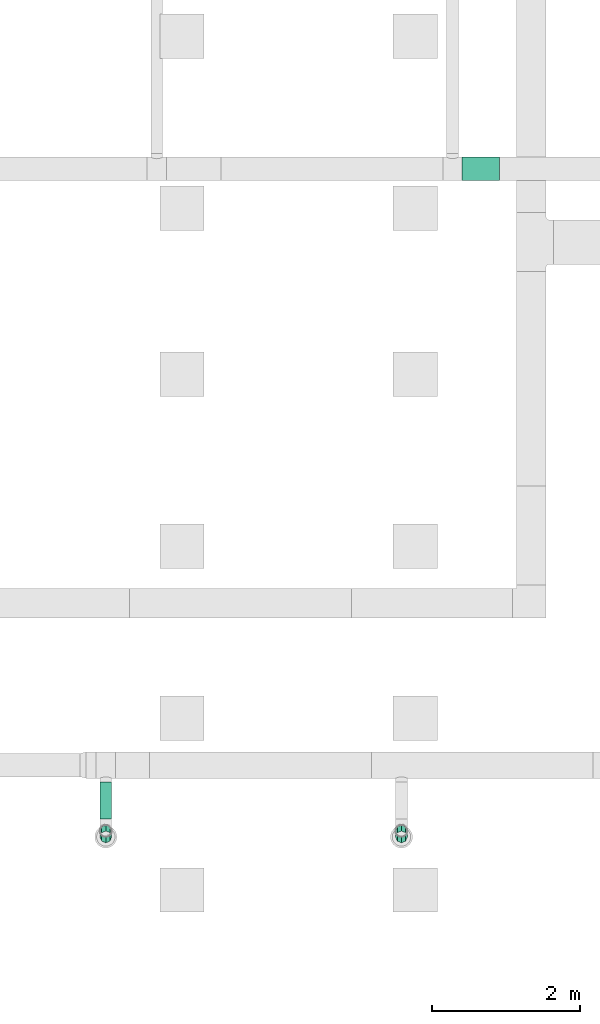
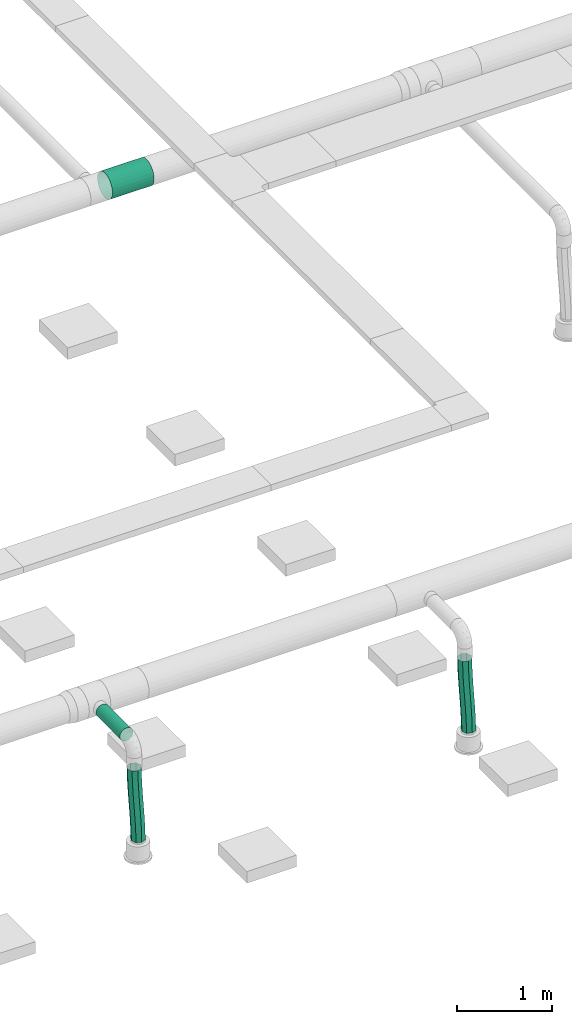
# One storey, part 236 of 374: 4 flow segments.
"""IFC2X3 building model written with IfcOpenShell, lengths in metres."""

from ifc_helpers import new_model, si_unit, direction, origin, place, context, subcontext, project, spatial, open_shell, surface_model, source, transform, mapped, element, save


model = new_model("IFC2X3")

# Units and contexts
model_context = context("Model", 3, precision=1e-05, world=origin(), true_north=direction((-0.4480736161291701, 0.8939966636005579)))
body_context = subcontext(model_context, "Body", "Model", "MODEL_VIEW")
ifc_project = project(units=[si_unit("LENGTHUNIT", "METRE"), si_unit("AREAUNIT", "SQUARE_METRE"), si_unit("VOLUMEUNIT", "CUBIC_METRE"), si_unit("PLANEANGLEUNIT", "RADIAN"), si_unit("THERMODYNAMICTEMPERATUREUNIT", "KELVIN"), si_unit("MASSUNIT", "GRAM", prefix="KILO"), si_unit("TIMEUNIT", "SECOND")], contexts=[model_context])

# Site, building, storey
site_placement = place(None, origin())
site = spatial("IfcSite", under=ifc_project, at=site_placement, Name="Site 1", CompositionType="ELEMENT")
building_placement = place(site_placement, origin())
building = spatial("IfcBuilding", under=site, at=building_placement, Name="Undefined", CompositionType="ELEMENT")
storey_placement = place(building_placement, origin())
storey = spatial("IfcBuildingStorey", under=building, at=storey_placement, Name="Rez de chauss\x8ee", CompositionType="ELEMENT", Elevation=0.0)

# Flow segments
shared_shape_1 = source(origin(), body_context, "Body", "SurfaceModel", [
    surface_model("IfcFaceBasedSurfaceModel", [(0.0, 0.04111575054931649, 0.0), (0.0, 0.0, 0.0), (0.5045715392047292, 0.0, -8.8817842e-16), (0.5045715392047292, 0.04111575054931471, -8.8817842e-16), (0.0, -0.03971476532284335, -0.010641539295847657), (0.5045715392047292, -0.039714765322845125, -0.010641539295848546), (0.0, -0.0753220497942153, -0.0311994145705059), (0.5045715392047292, -0.07532204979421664, -0.03119941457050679), (0.0, -0.10439527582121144, -0.060272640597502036), (0.5045715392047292, -0.10439527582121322, -0.06027264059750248), (0.0, -0.12495315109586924, -0.09587992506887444), (0.5045715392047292, -0.12495315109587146, -0.09587992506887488), (0.0, -0.13559469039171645, -0.13559469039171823), (0.5045715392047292, -0.13559469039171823, -0.13559469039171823), (0.0, -0.135594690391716, -0.17671044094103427), (0.5045715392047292, -0.13559469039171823, -0.17671044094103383), (0.0, -0.1249531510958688, -0.21642520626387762), (0.5045715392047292, -0.12495315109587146, -0.21642520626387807), (0.0, -0.10439527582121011, -0.2520324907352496), (0.5045715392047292, -0.10439527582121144, -0.2520324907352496), (0.0, -0.07532204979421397, -0.2811057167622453), (0.5045715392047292, -0.07532204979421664, -0.2811057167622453), (0.0, -0.039714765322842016, -0.3016635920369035), (0.5045715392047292, -0.03971476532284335, -0.3016635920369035), (0.0, 1.776356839e-15, -0.3123051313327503), (0.5045715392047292, -1.776356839e-15, -0.3123051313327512), (0.0, 0.041115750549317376, -0.31230513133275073), (0.5045715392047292, 0.04111575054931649, -0.3123051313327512), (0.0, 0.08083051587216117, -0.30166359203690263), (0.5045715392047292, 0.08083051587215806, -0.3016635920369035), (0.0, 0.11643780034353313, -0.28110571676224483), (0.5045715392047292, 0.11643780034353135, -0.2811057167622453), (0.0, 0.14551102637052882, -0.25203249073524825), (0.5045715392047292, 0.14551102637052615, -0.2520324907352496), (0.0, 0.16606890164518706, -0.2164252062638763), (0.5045715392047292, 0.1660689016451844, -0.21642520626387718), (0.0, 0.17671044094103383, -0.1767104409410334), (0.5045715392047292, 0.17671044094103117, -0.17671044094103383), (0.0, 0.17671044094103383, -0.1355946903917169), (0.5045715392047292, 0.17671044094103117, -0.13559469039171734), (0.0, 0.16606890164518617, -0.09587992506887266), (0.5045715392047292, 0.1660689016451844, -0.095879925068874), (0.0, 0.14551102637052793, -0.06027264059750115), (0.5045715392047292, 0.14551102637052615, -0.06027264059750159), (0.0, 0.1164378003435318, -0.031199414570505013), (0.5045715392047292, 0.11643780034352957, -0.03119941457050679), (0.0, 0.08083051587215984, -0.010641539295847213), (0.5045715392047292, 0.08083051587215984, -0.010641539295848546)], [open_shell([[[0, 1, 2, 3]], [[1, 4, 5, 2]], [[4, 6, 7, 5]], [[6, 8, 9, 7]], [[8, 10, 11, 9]], [[10, 12, 13, 11]], [[12, 14, 15, 13]], [[14, 16, 17, 15]], [[16, 18, 19, 17]], [[18, 20, 21, 19]], [[20, 22, 23, 21]], [[22, 24, 25, 23]], [[24, 26, 27, 25]], [[26, 28, 29, 27]], [[28, 30, 31, 29]], [[30, 32, 33, 31]], [[32, 34, 35, 33]], [[34, 36, 37, 35]], [[36, 38, 39, 37]], [[38, 40, 41, 39]], [[40, 42, 43, 41]], [[42, 44, 45, 43]], [[44, 46, 47, 45]], [[46, 0, 3, 47]]])]),
])
flow_segment_1_placement = place(storey_placement, origin())
element("IfcFlowSegment", 1, at=flow_segment_1_placement, inside=storey, Name="Tube", ObjectType="Tube", context=body_context, shape_type="MappedRepresentation", body=[
    mapped(shared_shape_1, transform((27.614625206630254, 10.95995797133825, 3.952133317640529), x_axis=(-1.0, 0.0, 0.0), y_axis=(7.266545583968e-12, -0.9914448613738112, 0.13052619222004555), z_axis=(0.0, 0.13052619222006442, 0.9914448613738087))),
])
shared_shape_2 = source(origin(), body_context, "Body", "SurfaceModel", [
    surface_model("IfcFaceBasedSurfaceModel", [(0.09591138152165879, 0.0, -3.552713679e-15), (0.05777895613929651, 0.04790565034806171, -3.552713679e-15), (0.0, 0.0, 0.0), (0.039908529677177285, -0.04643643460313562, -1.0802189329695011e-06), (-0.05576709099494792, -0.04966194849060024, -0.0010921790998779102), (-0.014403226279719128, -0.09480686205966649, -0.0010661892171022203), (-0.10982704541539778, -0.10061373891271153, -0.0030471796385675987), (-0.06736210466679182, -0.14472448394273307, -0.0029825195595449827), (-0.1625398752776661, -0.15244488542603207, -0.0056388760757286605), (-0.1193063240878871, -0.19580250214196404, -0.005537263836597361), (-0.21426131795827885, -0.20475371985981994, -0.00864508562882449), (-0.17057410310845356, -0.2476541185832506, -0.008517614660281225), (-0.2653408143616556, -0.2571453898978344, -0.011847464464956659), (-0.2215036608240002, -0.29989253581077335, -0.011710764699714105), (-0.3161204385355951, -0.30923056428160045, -0.015031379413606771), (-0.27243322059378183, -0.35213095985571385, -0.014903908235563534), (-0.3669345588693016, -0.36062497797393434, -0.01798585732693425), (-0.32370100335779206, -0.403982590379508, -0.01788424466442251), (-0.41811017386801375, -0.41094988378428, -0.02050363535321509), (-0.37564522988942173, -0.4550606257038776, -0.02043897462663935), (-0.4699679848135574, -0.4598333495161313, -0.0223812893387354), (-0.42860412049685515, -0.5049782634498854, -0.02235529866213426), (-0.5228244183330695, -0.506912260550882, -0.02341933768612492), (-0.48291589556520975, -0.5533487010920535, -0.02342041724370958), (-0.5770511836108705, -0.551879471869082, -0.023421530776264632), (-0.5389187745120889, -0.599785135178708, -0.023421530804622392), (0.030535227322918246, 0.08155715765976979, -0.043294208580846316), (-0.02797941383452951, 0.033042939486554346, -0.04329376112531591), (-0.08434932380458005, -0.017153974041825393, -0.04439715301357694), (-0.13886535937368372, -0.06853413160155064, -0.0463681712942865), (-0.19189655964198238, -0.12067723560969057, -0.04897517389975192), (-0.24380591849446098, -0.17317545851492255, -0.05199209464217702), (-0.29494752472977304, -0.2256306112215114, -0.05519829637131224), (-0.34566504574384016, -0.277652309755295, -0.058378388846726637), (-0.3962912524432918, -0.32885733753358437, -0.0613221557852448), (-0.4471484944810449, -0.3788702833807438, -0.06382462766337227), (-0.4985502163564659, -0.4273253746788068, -0.0656862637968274), (-0.5508038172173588, -0.4738693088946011, -0.06671309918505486), (-0.6042948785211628, -0.5182279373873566, -0.06671573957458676), (0.030139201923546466, 0.0812419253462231, -0.10452146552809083), (-0.027639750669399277, 0.03333627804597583, -0.1045214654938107), (-0.08340684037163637, -0.016325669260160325, -0.10561364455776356), (-0.137466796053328, -0.06727746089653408, -0.10756864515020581), (-0.19017962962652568, -0.11910861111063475, -0.11016034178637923), (-0.24190107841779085, -0.1714174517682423, -0.11316655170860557), (-0.2929805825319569, -0.22380912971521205, -0.11636893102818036), (-0.34376021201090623, -0.27589430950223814, -0.1195528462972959), (-0.39457433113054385, -0.3272887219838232, -0.1225073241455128), (-0.44574993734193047, -0.3776136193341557, -0.1250251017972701), (-0.49760773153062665, -0.4264970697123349, -0.12690275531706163), (-0.5504641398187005, -0.4735759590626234, -0.12794080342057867), (-0.6046908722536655, -0.5185431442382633, -0.12794299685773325), (0.05682286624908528, 0.04714461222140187, -0.1478156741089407), (0.0008200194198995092, 0.0007081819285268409, -0.1478167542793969), (-0.0534917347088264, -0.047662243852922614, -0.14888186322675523), (-0.10645061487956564, -0.09757986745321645, -0.1507981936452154), (-0.15839483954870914, -0.14865789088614, -0.15335293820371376), (-0.20966262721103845, -0.20050951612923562, -0.15633328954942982), (-0.26059219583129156, -0.25274794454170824, -0.15952644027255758), (-0.31152176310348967, -0.30498637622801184, -0.16271958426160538), (-0.36278954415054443, -0.3568380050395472, -0.16569992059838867), (-0.4147337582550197, -0.4079160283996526, -0.16825465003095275), (-0.4676926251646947, -0.4578336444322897, -0.17017097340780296), (-0.5220043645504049, -0.5062040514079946, -0.17123609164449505), (-0.5780071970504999, -0.552640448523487, -0.1712372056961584), (0.09495529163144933, -0.0007610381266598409, -0.14781567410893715), (0.040728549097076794, -0.045728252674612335, -0.1478178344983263), (-0.012127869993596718, -0.09280715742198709, -0.14885587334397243), (-0.06398567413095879, -0.14169061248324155, -0.15073353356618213), (-0.11516128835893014, -0.19201550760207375, -0.15325132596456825), (-0.16597541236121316, -0.24340991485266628, -0.1562058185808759), (-0.2167550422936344, -0.29549509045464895, -0.15938974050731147), (-0.2678345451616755, -0.3478867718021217, -0.16259211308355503), (-0.3195559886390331, -0.40019561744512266, -0.16559830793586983), (-0.3722688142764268, -0.4520267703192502, -0.168189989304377), (-0.4263287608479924, -0.5029785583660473, -0.17014498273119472), (-0.48209584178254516, -0.5526404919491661, -0.1712371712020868), (-0.5398747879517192, -0.6005461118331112, -0.17123720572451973), (0.12219902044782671, -0.03441254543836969, -0.10452146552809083), (0.06870796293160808, -0.0787711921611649, -0.10452407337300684), (0.016454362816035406, -0.12531513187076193, -0.1055508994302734), (-0.034947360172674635, -0.17377021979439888, -0.10741254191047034), (-0.0858046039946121, -0.2237831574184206, -0.10991502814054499), (-0.1364308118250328, -0.27498817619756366, -0.11285880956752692), (-0.18714833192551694, -0.32700986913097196, -0.11603890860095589), (-0.23828993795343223, -0.37946502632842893, -0.11924510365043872), (-0.29019929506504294, -0.4319632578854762, -0.12226200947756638), (-0.34323049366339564, -0.48410637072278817, -0.12486899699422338), (-0.39774652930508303, -0.5354865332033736, -0.12684000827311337), (-0.45411644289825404, -0.5856834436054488, -0.12794340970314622), (-0.5126310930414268, -0.6341976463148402, -0.1279429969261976), (0.12259504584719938, -0.034097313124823, -0.04329420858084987), (0.06836829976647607, -0.07906453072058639, -0.04329636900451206), (0.015511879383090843, -0.126143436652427, -0.04433440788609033), (-0.036345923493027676, -0.17502689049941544, -0.04621206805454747), (-0.08752153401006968, -0.22535178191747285, -0.04872986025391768), (-0.13833565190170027, -0.2767461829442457, -0.05168435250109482), (-0.1891152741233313, -0.3288313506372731, -0.05486827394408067), (-0.2401947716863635, -0.38122302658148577, -0.05807064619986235), (-0.29191621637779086, -0.4335318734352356, -0.06107684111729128), (-0.3446290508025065, -0.48536303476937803, -0.06366852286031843), (-0.3986890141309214, -0.5363148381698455, -0.06562351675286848), (-0.45445612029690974, -0.5859767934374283, -0.0667157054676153), (-0.5122350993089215, -0.6338824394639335, -0.06671573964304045)], [open_shell([[[0, 1, 2]], [[2, 3, 0]], [[3, 2, 4]], [[4, 5, 3]], [[5, 4, 6]], [[6, 7, 5]], [[7, 6, 8]], [[8, 9, 7]], [[9, 8, 10]], [[10, 11, 9]], [[11, 10, 12]], [[12, 13, 11]], [[13, 12, 14]], [[14, 15, 13]], [[15, 14, 16]], [[16, 17, 15]], [[17, 16, 18]], [[18, 19, 17]], [[19, 18, 20]], [[20, 21, 19]], [[21, 20, 22]], [[22, 23, 21]], [[23, 22, 24]], [[24, 25, 23]], [[1, 26, 27]], [[27, 2, 1]], [[2, 27, 28]], [[28, 4, 2]], [[4, 28, 29]], [[29, 6, 4]], [[6, 29, 30]], [[30, 8, 6]], [[8, 30, 31]], [[31, 10, 8]], [[10, 31, 32]], [[32, 12, 10]], [[12, 32, 33]], [[33, 14, 12]], [[14, 33, 34]], [[34, 16, 14]], [[16, 34, 35]], [[35, 18, 16]], [[18, 35, 36]], [[36, 20, 18]], [[20, 36, 37]], [[37, 22, 20]], [[22, 37, 38]], [[38, 24, 22]], [[26, 39, 40]], [[40, 27, 26]], [[27, 40, 41]], [[41, 28, 27]], [[28, 41, 42]], [[42, 29, 28]], [[29, 42, 43]], [[43, 30, 29]], [[30, 43, 44]], [[44, 31, 30]], [[31, 44, 45]], [[45, 32, 31]], [[32, 45, 46]], [[46, 33, 32]], [[33, 46, 47]], [[47, 34, 33]], [[34, 47, 48]], [[48, 35, 34]], [[35, 48, 49]], [[49, 36, 35]], [[36, 49, 50]], [[50, 37, 36]], [[37, 50, 51]], [[51, 38, 37]], [[39, 52, 53]], [[53, 40, 39]], [[40, 53, 54]], [[54, 41, 40]], [[41, 54, 55]], [[55, 42, 41]], [[42, 55, 56]], [[56, 43, 42]], [[43, 56, 57]], [[57, 44, 43]], [[44, 57, 58]], [[58, 45, 44]], [[45, 58, 59]], [[59, 46, 45]], [[46, 59, 60]], [[60, 47, 46]], [[47, 60, 61]], [[61, 48, 47]], [[48, 61, 62]], [[62, 49, 48]], [[49, 62, 63]], [[63, 50, 49]], [[50, 63, 64]], [[64, 51, 50]], [[52, 65, 66]], [[66, 53, 52]], [[53, 66, 67]], [[67, 54, 53]], [[54, 67, 68]], [[68, 55, 54]], [[55, 68, 69]], [[69, 56, 55]], [[56, 69, 70]], [[70, 57, 56]], [[57, 70, 71]], [[71, 58, 57]], [[58, 71, 72]], [[72, 59, 58]], [[59, 72, 73]], [[73, 60, 59]], [[60, 73, 74]], [[74, 61, 60]], [[61, 74, 75]], [[75, 62, 61]], [[62, 75, 76]], [[76, 63, 62]], [[63, 76, 77]], [[77, 64, 63]], [[65, 78, 79]], [[79, 66, 65]], [[66, 79, 80]], [[80, 67, 66]], [[67, 80, 81]], [[81, 68, 67]], [[68, 81, 82]], [[82, 69, 68]], [[69, 82, 83]], [[83, 70, 69]], [[70, 83, 84]], [[84, 71, 70]], [[71, 84, 85]], [[85, 72, 71]], [[72, 85, 86]], [[86, 73, 72]], [[73, 86, 87]], [[87, 74, 73]], [[74, 87, 88]], [[88, 75, 74]], [[75, 88, 89]], [[89, 76, 75]], [[76, 89, 90]], [[90, 77, 76]], [[78, 91, 92]], [[92, 79, 78]], [[79, 92, 93]], [[93, 80, 79]], [[80, 93, 94]], [[94, 81, 80]], [[81, 94, 95]], [[95, 82, 81]], [[82, 95, 96]], [[96, 83, 82]], [[83, 96, 97]], [[97, 84, 83]], [[84, 97, 98]], [[98, 85, 84]], [[85, 98, 99]], [[99, 86, 85]], [[86, 99, 100]], [[100, 87, 86]], [[87, 100, 101]], [[101, 88, 87]], [[88, 101, 102]], [[102, 89, 88]], [[89, 102, 103]], [[103, 90, 89]], [[91, 0, 3]], [[3, 92, 91]], [[92, 3, 5]], [[5, 93, 92]], [[93, 5, 7]], [[7, 94, 93]], [[94, 7, 9]], [[9, 95, 94]], [[95, 9, 11]], [[11, 96, 95]], [[96, 11, 13]], [[13, 97, 96]], [[97, 13, 15]], [[15, 98, 97]], [[98, 15, 17]], [[17, 99, 98]], [[99, 17, 19]], [[19, 100, 99]], [[100, 19, 21]], [[21, 101, 100]], [[101, 21, 23]], [[23, 102, 101]], [[102, 23, 25]], [[25, 103, 102]]])]),
])
flow_segment_2_placement = place(storey_placement, origin())
element("IfcFlowSegment", 2, at=flow_segment_2_placement, inside=storey, Name="Tube flexible", ObjectType="Tube flexible", context=body_context, shape_type="MappedRepresentation", body=[
    mapped(shared_shape_2, transform((26.23343239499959, 2.014947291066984, 3.4049618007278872), x_axis=(-0.24430322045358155, -0.572898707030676, 0.782370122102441), y_axis=(0.2946538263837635, 0.7248106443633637, 0.6227589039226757), z_axis=(-0.9238479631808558, 0.3826703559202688, -0.008266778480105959))),
])
shared_shape_3 = source(origin(), body_context, "Body", "SurfaceModel", [
    surface_model("IfcFaceBasedSurfaceModel", [(0.0, 0.020884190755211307, 0.0), (0.0, 0.0, 0.0), (0.5012979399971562, 0.0, 0.0), (0.5012979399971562, 0.0208841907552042, 0.0), (0.0, -0.020172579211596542, -0.005405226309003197), (0.5012979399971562, -0.020172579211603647, -0.005405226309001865), (0.0, -0.03825881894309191, -0.015847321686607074), (0.5012979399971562, -0.03825881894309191, -0.015847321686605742), (0.0, -0.05302617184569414, -0.0306146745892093), (0.5012979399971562, -0.05302617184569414, -0.030614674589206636), (0.0, -0.06346826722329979, -0.04870091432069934), (0.5012979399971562, -0.06346826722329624, -0.04870091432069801), (0.0, -0.06887349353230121, -0.06887349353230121), (0.5012979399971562, -0.06887349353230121, -0.06887349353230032), (0.0, -0.06887349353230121, -0.08975768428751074), (0.5012979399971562, -0.06887349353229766, -0.08975768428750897), (0.0, -0.06346826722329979, -0.10993026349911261), (0.5012979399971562, -0.06346826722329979, -0.10993026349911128), (0.0, -0.05302617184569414, -0.12801650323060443), (0.5012979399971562, -0.05302617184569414, -0.1280165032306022), (0.0, -0.038258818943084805, -0.14278385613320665), (0.5012979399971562, -0.03825881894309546, -0.1427838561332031), (0.0, -0.020172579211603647, -0.15322595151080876), (0.5012979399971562, -0.020172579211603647, -0.15322595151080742), (0.0, 7.105427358e-15, -0.15863117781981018), (0.5012979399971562, -3.552713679e-15, -0.1586311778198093), (0.0, 0.020884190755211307, -0.15863117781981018), (0.5012979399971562, 0.020884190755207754, -0.1586311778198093), (0.0, 0.04105676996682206, -0.15322595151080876), (0.5012979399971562, 0.0410567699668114, -0.15322595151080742), (0.0, 0.05914300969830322, -0.1427838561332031), (0.5012979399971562, 0.059143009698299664, -0.14278385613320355), (0.0, 0.07391036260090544, -0.12801650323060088), (0.5012979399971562, 0.07391036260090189, -0.1280165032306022), (0.0, 0.0843524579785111, -0.10993026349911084), (0.5012979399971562, 0.08435245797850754, -0.10993026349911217), (0.0, 0.08975768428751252, -0.08975768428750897), (0.5012979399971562, 0.08975768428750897, -0.08975768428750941), (0.0, 0.08975768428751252, -0.06887349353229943), (0.5012979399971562, 0.08975768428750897, -0.06887349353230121), (0.0, 0.0843524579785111, -0.048700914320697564), (0.5012979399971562, 0.08435245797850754, -0.048700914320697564), (0.0, 0.07391036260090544, -0.030614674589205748), (0.5012979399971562, 0.07391036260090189, -0.03061467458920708), (0.0, 0.05914300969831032, -0.015847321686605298), (0.5012979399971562, 0.05914300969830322, -0.015847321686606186), (0.0, 0.04105676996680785, -0.005405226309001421), (0.5012979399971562, 0.0410567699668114, -0.005405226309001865)], [open_shell([[[0, 1, 2, 3]], [[1, 4, 5, 2]], [[4, 6, 7, 5]], [[6, 8, 9, 7]], [[8, 10, 11, 9]], [[10, 12, 13, 11]], [[12, 14, 15, 13]], [[14, 16, 17, 15]], [[16, 18, 19, 17]], [[18, 20, 21, 19]], [[20, 22, 23, 21]], [[22, 24, 25, 23]], [[24, 26, 27, 25]], [[26, 28, 29, 27]], [[28, 30, 31, 29]], [[30, 32, 33, 31]], [[32, 34, 35, 33]], [[34, 36, 37, 35]], [[36, 38, 39, 37]], [[38, 40, 41, 39]], [[40, 42, 43, 41]], [[42, 44, 45, 43]], [[44, 46, 47, 45]], [[46, 0, 3, 47]]])]),
])
flow_segment_3_placement = place(storey_placement, origin())
element("IfcFlowSegment", 3, at=flow_segment_3_placement, inside=storey, Name="Tube", ObjectType="Tube", context=body_context, shape_type="MappedRepresentation", body=[
    mapped(shared_shape_3, transform((22.269295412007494, 2.621297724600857, 3.877274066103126), x_axis=(0.0, -1.0, 0.0), y_axis=(0.9914448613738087, 0.0, 0.13052619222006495), z_axis=(-0.13052619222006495, 0.0, 0.9914448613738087))),
])
shared_shape_4 = source(origin(), body_context, "Body", "SurfaceModel", [
    surface_model("IfcFaceBasedSurfaceModel", [(0.09591138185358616, 1.776356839e-15, -3.552713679e-15), (0.05777895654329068, 0.04790565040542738, -3.552713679e-15), (0.0, 0.0, 0.0), (0.03990852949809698, -0.046436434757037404, -1.080227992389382e-06), (-0.05576709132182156, -0.049661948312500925, -0.001092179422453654), (-0.01440322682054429, -0.09480686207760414, -0.0010661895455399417), (-0.10982704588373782, -0.10061373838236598, -0.0030471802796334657), (-0.0673621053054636, -0.1447244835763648, -0.0029825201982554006), (-0.16253987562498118, -0.1524448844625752, -0.0056388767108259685), (-0.11930632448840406, -0.19580250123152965, -0.005537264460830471), (-0.21426131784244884, -0.2047537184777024, -0.008645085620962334), (-0.17057410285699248, -0.24765411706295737, -0.008517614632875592), (-0.2653408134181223, -0.25714538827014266, -0.011847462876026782), (-0.22150365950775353, -0.29989253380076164, -0.011710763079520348), (-0.31612043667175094, -0.30923056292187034, -0.01503137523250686), (-0.27243321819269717, -0.35213095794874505, -0.014903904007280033), (-0.3669345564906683, -0.36062497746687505, -0.017985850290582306), (-0.3237010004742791, -0.40398258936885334, -0.01788423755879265), (-0.41811017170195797, -0.410949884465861, -0.020503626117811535), (-0.3756452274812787, -0.4550606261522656, -0.020438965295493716), (-0.4699679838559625, -0.4598333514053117, -0.02238127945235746), (-0.4286041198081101, -0.5049782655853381, -0.022355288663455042), (-0.5228244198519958, -0.506912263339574, -0.02341932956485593), (-0.482915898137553, -0.5533487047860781, -0.023420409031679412), (-0.5770511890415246, -0.5518794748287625, -0.02342152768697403), (-0.5389187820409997, -0.5997851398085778, -0.023421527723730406), (0.030535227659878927, 0.08155715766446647, -0.043294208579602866), (-0.027979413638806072, 0.03304293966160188, -0.04329376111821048), (-0.08434932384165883, -0.017153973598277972, -0.04439715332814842), (-0.13886535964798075, -0.06853413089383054, -0.04636817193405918), (-0.19189656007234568, -0.12067723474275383, -0.04897517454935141), (-0.2438059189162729, -0.17317545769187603, -0.051992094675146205), (-0.294947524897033, -0.22563061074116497, -0.05519829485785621), (-0.34566504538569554, -0.2776523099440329, -0.058378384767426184), (-0.3962912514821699, -0.32885733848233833, -0.06132214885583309), (-0.4471484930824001, -0.37887028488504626, -0.06382461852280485), (-0.4985502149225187, -0.427325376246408, -0.06568625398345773), (-0.5508038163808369, -0.47386930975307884, -0.06671309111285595), (-0.6042948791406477, -0.5182279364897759, -0.06671573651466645), (0.030139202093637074, 0.08124192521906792, -0.10452146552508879), (-0.027639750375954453, 0.03333627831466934, -0.10452146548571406), (-0.08340684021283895, -0.01632566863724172, -0.10561364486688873), (-0.13746679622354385, -0.06727746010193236, -0.10756864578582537), (-0.19017963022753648, -0.11910861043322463, -0.11016034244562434), (-0.24190107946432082, -0.17141745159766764, -0.11316655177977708), (-0.29298058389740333, -0.22380913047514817, -0.11636892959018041), (-0.3437602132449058, -0.27589431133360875, -0.11955284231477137), (-0.39457433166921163, -0.3272887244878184, -0.12250731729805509), (-0.4457499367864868, -0.3776136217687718, -0.125025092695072), (-0.4976077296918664, -0.42649707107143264, -0.12690274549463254), (-0.5504641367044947, -0.4735759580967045, -0.1279407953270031), (-0.6046908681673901, -0.5185431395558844, -0.127942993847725), (0.056822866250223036, 0.047144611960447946, -0.1478156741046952), (0.0008200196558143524, 0.0007081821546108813, -0.1478167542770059), (-0.05349173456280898, -0.047662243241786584, -0.14888186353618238), (-0.1064506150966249, -0.09757986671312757, -0.1507981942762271), (-0.15839484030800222, -0.14865789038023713, -0.15335293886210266), (-0.20966262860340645, -0.2005095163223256, -0.15633328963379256), (-0.26059219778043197, -0.2527479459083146, -0.15952643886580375), (-0.31152176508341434, -0.3049863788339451, -0.16271958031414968), (-0.3627895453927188, -0.35683800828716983, -0.165699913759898), (-0.414733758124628, -0.40791603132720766, -0.16825464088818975), (-0.4676926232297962, -0.4578336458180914, -0.17017096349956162), (-0.5220043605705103, -0.5062040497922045, -0.1712360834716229), (-0.5780071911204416, -0.5526404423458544, -0.17123720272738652), (0.0949552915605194, -0.0007610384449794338, -0.14781567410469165), (0.04072854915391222, -0.045728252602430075, -0.1478178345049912), (-0.012127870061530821, -0.09280715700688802, -0.14885587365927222), (-0.06398567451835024, -0.14169061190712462, -0.15073353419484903), (-0.11516128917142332, -0.19201550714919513, -0.1532513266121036), (-0.16597541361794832, -0.24340991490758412, -0.1562058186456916), (-0.21675504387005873, -0.29549509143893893, -0.1593897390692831), (-0.2678345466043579, -0.34788677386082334, -0.1625921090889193), (-0.3195559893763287, -0.4001956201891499, -0.16559830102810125), (-0.37226881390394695, -0.45202677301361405, -0.16818998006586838), (-0.4263287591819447, -0.5029785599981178, -0.1701449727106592), (-0.4820958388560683, -0.5526404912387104, -0.17123716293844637), (-0.539874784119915, -0.6005461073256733, -0.17123720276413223), (0.12219902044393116, -0.03441254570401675, -0.10452146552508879), (0.06870796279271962, -0.07877119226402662, -0.10452407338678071), (0.016454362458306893, -0.12531513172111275, -0.1055508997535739), (-0.03494736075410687, -0.17377021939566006, -0.10741254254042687), (-0.08580460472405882, -0.22378315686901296, -0.10991502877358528), (-0.13643081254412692, -0.27498817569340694, -0.1128588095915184), (-0.1871483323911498, -0.3270098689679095, -0.116038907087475), (-0.23828993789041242, -0.37946502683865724, -0.11924509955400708), (-0.29019929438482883, -0.43196325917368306, -0.12226200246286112), (-0.34323049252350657, -0.48410637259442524, -0.12486898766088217), (-0.39774652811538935, -0.5354865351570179, -0.12683999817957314), (-0.45411644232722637, -0.585683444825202, -0.1279434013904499), (-0.5126310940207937, -0.6341976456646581, -0.12794299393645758), (0.12259504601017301, -0.03409731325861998, -0.04329420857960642), (0.06836829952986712, -0.07906453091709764, -0.04329636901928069), (0.015511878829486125, -0.12614343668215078, -0.044334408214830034), (-0.03634592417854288, -0.17502689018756, -0.046212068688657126), (-0.08752153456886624, -0.22535178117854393, -0.04872986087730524), (-0.13833565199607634, -0.2767461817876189, -0.051684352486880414), (-0.18911527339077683, -0.3288313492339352, -0.05486827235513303), (-0.24019477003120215, -0.38122302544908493, -0.05807064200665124), (-0.29191621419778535, -0.4335318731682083, -0.061076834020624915), (-0.34462904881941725, -0.48536303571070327, -0.06366851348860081), (-0.3986890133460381, -0.5363148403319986, -0.06562350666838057), (-0.4544561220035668, -0.5859767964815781, -0.06671569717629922), (-0.5122351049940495, -0.6338824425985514, -0.06671573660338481)], [open_shell([[[0, 1, 2]], [[2, 3, 0]], [[3, 2, 4]], [[4, 5, 3]], [[5, 4, 6]], [[6, 7, 5]], [[7, 6, 8]], [[8, 9, 7]], [[9, 8, 10]], [[10, 11, 9]], [[11, 10, 12]], [[12, 13, 11]], [[13, 12, 14]], [[14, 15, 13]], [[15, 14, 16]], [[16, 17, 15]], [[17, 16, 18]], [[18, 19, 17]], [[19, 18, 20]], [[20, 21, 19]], [[21, 20, 22]], [[22, 23, 21]], [[23, 22, 24]], [[24, 25, 23]], [[1, 26, 27]], [[27, 2, 1]], [[2, 27, 28]], [[28, 4, 2]], [[4, 28, 29]], [[29, 6, 4]], [[6, 29, 30]], [[30, 8, 6]], [[8, 30, 31]], [[31, 10, 8]], [[10, 31, 32]], [[32, 12, 10]], [[12, 32, 33]], [[33, 14, 12]], [[14, 33, 34]], [[34, 16, 14]], [[16, 34, 35]], [[35, 18, 16]], [[18, 35, 36]], [[36, 20, 18]], [[20, 36, 37]], [[37, 22, 20]], [[22, 37, 38]], [[38, 24, 22]], [[26, 39, 40]], [[40, 27, 26]], [[27, 40, 41]], [[41, 28, 27]], [[28, 41, 42]], [[42, 29, 28]], [[29, 42, 43]], [[43, 30, 29]], [[30, 43, 44]], [[44, 31, 30]], [[31, 44, 45]], [[45, 32, 31]], [[32, 45, 46]], [[46, 33, 32]], [[33, 46, 47]], [[47, 34, 33]], [[34, 47, 48]], [[48, 35, 34]], [[35, 48, 49]], [[49, 36, 35]], [[36, 49, 50]], [[50, 37, 36]], [[37, 50, 51]], [[51, 38, 37]], [[39, 52, 53]], [[53, 40, 39]], [[40, 53, 54]], [[54, 41, 40]], [[41, 54, 55]], [[55, 42, 41]], [[42, 55, 56]], [[56, 43, 42]], [[43, 56, 57]], [[57, 44, 43]], [[44, 57, 58]], [[58, 45, 44]], [[45, 58, 59]], [[59, 46, 45]], [[46, 59, 60]], [[60, 47, 46]], [[47, 60, 61]], [[61, 48, 47]], [[48, 61, 62]], [[62, 49, 48]], [[49, 62, 63]], [[63, 50, 49]], [[50, 63, 64]], [[64, 51, 50]], [[52, 65, 66]], [[66, 53, 52]], [[53, 66, 67]], [[67, 54, 53]], [[54, 67, 68]], [[68, 55, 54]], [[55, 68, 69]], [[69, 56, 55]], [[56, 69, 70]], [[70, 57, 56]], [[57, 70, 71]], [[71, 58, 57]], [[58, 71, 72]], [[72, 59, 58]], [[59, 72, 73]], [[73, 60, 59]], [[60, 73, 74]], [[74, 61, 60]], [[61, 74, 75]], [[75, 62, 61]], [[62, 75, 76]], [[76, 63, 62]], [[63, 76, 77]], [[77, 64, 63]], [[65, 78, 79]], [[79, 66, 65]], [[66, 79, 80]], [[80, 67, 66]], [[67, 80, 81]], [[81, 68, 67]], [[68, 81, 82]], [[82, 69, 68]], [[69, 82, 83]], [[83, 70, 69]], [[70, 83, 84]], [[84, 71, 70]], [[71, 84, 85]], [[85, 72, 71]], [[72, 85, 86]], [[86, 73, 72]], [[73, 86, 87]], [[87, 74, 73]], [[74, 87, 88]], [[88, 75, 74]], [[75, 88, 89]], [[89, 76, 75]], [[76, 89, 90]], [[90, 77, 76]], [[78, 91, 92]], [[92, 79, 78]], [[79, 92, 93]], [[93, 80, 79]], [[80, 93, 94]], [[94, 81, 80]], [[81, 94, 95]], [[95, 82, 81]], [[82, 95, 96]], [[96, 83, 82]], [[83, 96, 97]], [[97, 84, 83]], [[84, 97, 98]], [[98, 85, 84]], [[85, 98, 99]], [[99, 86, 85]], [[86, 99, 100]], [[100, 87, 86]], [[87, 100, 101]], [[101, 88, 87]], [[88, 101, 102]], [[102, 89, 88]], [[89, 102, 103]], [[103, 90, 89]], [[91, 0, 3]], [[3, 92, 91]], [[92, 3, 5]], [[5, 93, 92]], [[93, 5, 7]], [[7, 94, 93]], [[94, 7, 9]], [[9, 95, 94]], [[95, 9, 11]], [[11, 96, 95]], [[96, 11, 13]], [[13, 97, 96]], [[97, 13, 15]], [[15, 98, 97]], [[98, 15, 17]], [[17, 99, 98]], [[99, 17, 19]], [[19, 100, 99]], [[100, 19, 21]], [[21, 101, 100]], [[101, 21, 23]], [[23, 102, 101]], [[102, 23, 25]], [[25, 103, 102]]])]),
])
flow_segment_4_placement = place(storey_placement, origin())
element("IfcFlowSegment", 4, at=flow_segment_4_placement, inside=storey, Name="Tube flexible", ObjectType="Tube flexible", context=body_context, shape_type="MappedRepresentation", body=[
    mapped(shared_shape_4, transform((22.23343239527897, 2.0149472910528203, 3.404961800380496), x_axis=(-0.24430322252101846, -0.5728987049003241, 0.7823701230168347), y_axis=(0.29465382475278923, 0.72481064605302, 0.6227589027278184), z_axis=(-0.9238479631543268, 0.3826703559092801, -0.00826678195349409))),
])

save(model, "model.ifc")
